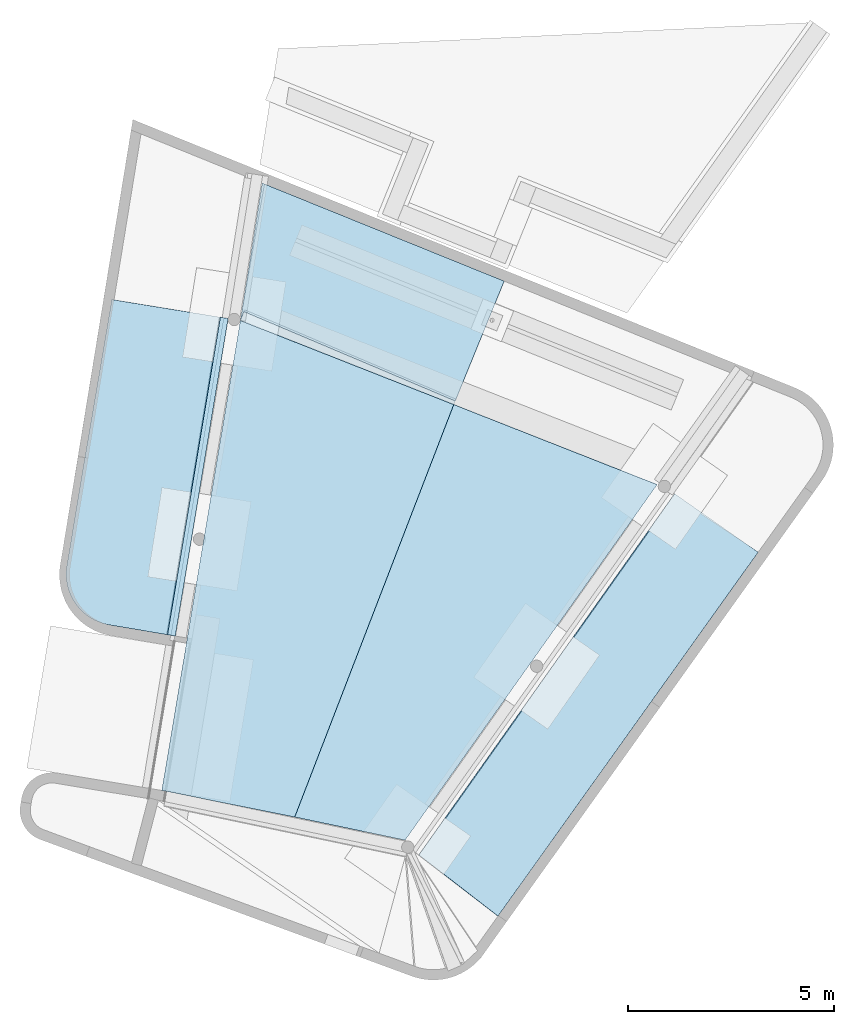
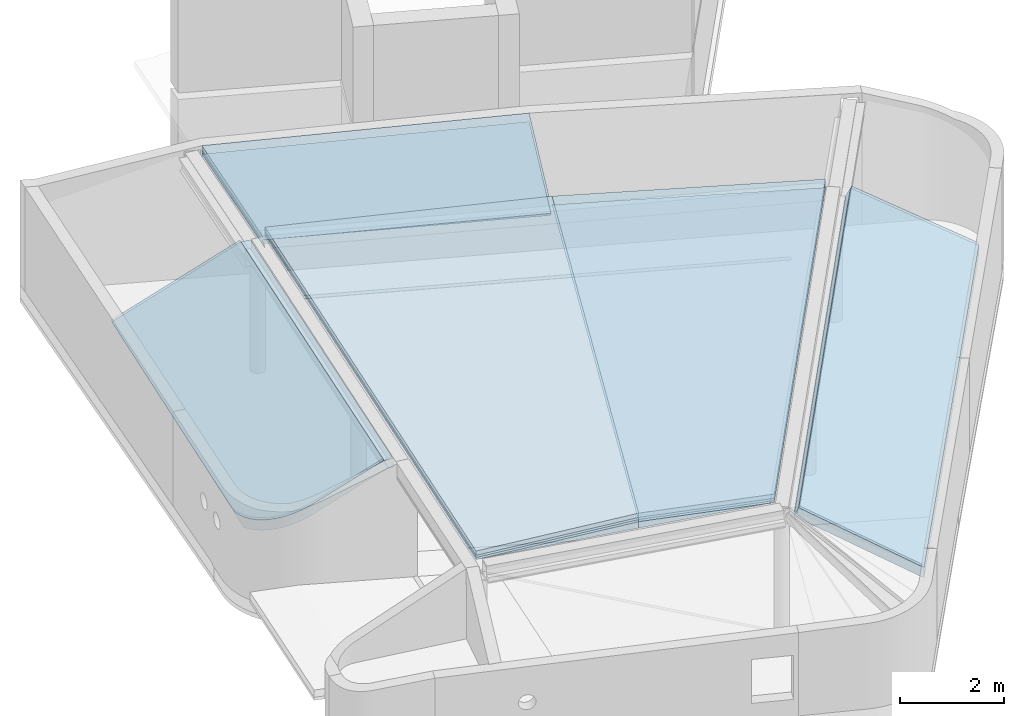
# One storey, part 4 of 8: 17 plates, 5 slabs.
"""IFC2X3 building model written with IfcOpenShell, lengths in millimetres."""

from ifc_helpers import new_model, si_unit, frame, origin_with_axes, place, context, subcontext, project, spatial, faceted_brep, material, type_object, element, save


model = new_model("IFC2X3")

# Units and contexts
model_context = context("Model", 3, precision=1e-05, world=origin_with_axes())
body_context = subcontext(model_context, "Body", "Model", "MODEL_VIEW")
ifc_project = project(units=[si_unit("LENGTHUNIT", "METRE", prefix="MILLI"), si_unit("AREAUNIT", "SQUARE_METRE"), si_unit("VOLUMEUNIT", "CUBIC_METRE"), si_unit("MASSUNIT", "GRAM", prefix="KILO"), si_unit("TIMEUNIT", "SECOND"), si_unit("PLANEANGLEUNIT", "RADIAN"), si_unit("SOLIDANGLEUNIT", "STERADIAN"), si_unit("THERMODYNAMICTEMPERATUREUNIT", "DEGREE_CELSIUS"), si_unit("LUMINOUSINTENSITYUNIT", "LUMEN")], contexts=[model_context])

# Site, building, storey
site_placement = place(None, origin_with_axes())
site = spatial("IfcSite", under=ifc_project, at=site_placement, Name="Site", CompositionType="ELEMENT")
building_placement = place(site_placement, origin_with_axes())
building = spatial("IfcBuilding", under=site, at=building_placement, Name="Undefined", CompositionType="ELEMENT")
storey_placement = place(building_placement, origin_with_axes())
storey = spatial("IfcBuildingStorey", under=building, at=storey_placement, Name="Undefined", CompositionType="ELEMENT", Elevation=0.0)

# Plates
ifc_material_1 = material(Name="MISCELLANEOUS/XPS")
plate_type_1 = type_object("IfcPlateType", Name="50*2751", PredefinedType="NOTDEFINED")
plate_1_placement = place(storey_placement, frame((55581.5771291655, 47964.5791632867, 38505.6678361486), z_axis=(-0.574260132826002, -0.818669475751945, -0.00236417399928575), x_axis=(-0.737870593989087, 0.516328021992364, 0.434686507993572)))
element("IfcPlate", 1, at=plate_1_placement, inside=storey, type_object=plate_type_1, material=ifc_material_1, Name="ISOLASJON", ObjectType="50*2751", context=body_context, shape_type="Brep", body=[
    faceted_brep([(118.461317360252, -25.0000000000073, 1.30967237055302e-10), (226.955693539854, -25.0000000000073, 10860.446277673), (202.831034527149, 25.0, 10861.4857183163), (94.3262744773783, 24.9999999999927, 1.01863406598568e-10), (2898.96802088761, -25.0000000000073, 10745.3193359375), (2845.37622070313, -25.0000000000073, 3.24507709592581e-09), (2845.37622070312, 24.9999999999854, 3.24507709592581e-09), (2898.96802088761, 24.9999999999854, 10745.3193359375)], [[[0, 1, 2, 3]], [[4, 5, 6, 7]], [[6, 5, 0, 3]], [[7, 6, 3, 2]], [[4, 7, 2, 1]], [[5, 4, 1, 0]]]),
])
ifc_material_2 = material(Name="MISCELLANEOUS/Misc_Undefined")
plate_type_2 = type_object("IfcPlateType", Name="0.5*2751", PredefinedType="NOTDEFINED")
plate_2_placement = place(storey_placement, frame((55572.7996929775, 47970.8005110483, 38483.3785125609), z_axis=(-0.574260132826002, -0.818669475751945, -0.00236417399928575), x_axis=(-0.737870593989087, 0.516328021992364, 0.434686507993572)))
element("IfcPlate", 2, at=plate_2_placement, inside=storey, type_object=plate_type_2, material=ifc_material_2, Name="MEMBRAN", ObjectType="0.5*2751", context=body_context, shape_type="Brep", body=[
    faceted_brep([(94.5676249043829, -0.250000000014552, -2.47382558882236e-10), (203.072281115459, -0.250000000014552, 10861.47532391), (202.831034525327, 0.249999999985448, 10861.4857183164), (94.3262744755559, 0.25, -2.47382558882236e-10), (2898.9680208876, -0.250000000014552, 10745.3193359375), (2845.37622070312, -0.250000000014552, -6.99947122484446e-09), (2845.37622070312, 0.249999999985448, -6.99947122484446e-09), (2898.96802088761, 0.249999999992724, 10745.3193359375)], [[[0, 1, 2, 3]], [[4, 5, 6, 7]], [[6, 5, 0, 3]], [[7, 6, 3, 2]], [[4, 7, 2, 1]], [[5, 4, 1, 0]]]),
])

# Slab
ifc_material_3 = material(Name="CONCRETE/C35/45")
slab_type_1 = type_object("IfcSlabType", Name="220*2845", PredefinedType="NOTDEFINED")
slab_1_placement = place(storey_placement, frame((55533.7002045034, 47998.513787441, 38384.0897074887), z_axis=(-0.574260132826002, -0.818669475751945, -0.00236417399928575), x_axis=(-0.737870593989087, 0.516328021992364, 0.434686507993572)))
element("IfcSlab", 3, at=slab_1_placement, inside=storey, type_object=slab_type_1, material=ifc_material_3, Name="PLASSTØPTDEKKE", ObjectType="220*2845", PredefinedType="FLOOR", context=body_context, shape_type="Brep", body=[
    faceted_brep([(-4.9453774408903e-12, 85.4135215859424, 0.0), (94.3262744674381, -110.000000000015, 1.45519152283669e-11), (202.831034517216, -110.000000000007, 10861.4857183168), (97.8538622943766, 107.572344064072, 10866.0087890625), (2898.96802088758, -110.0, 10745.3193359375), (2845.37622070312, -110.000000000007, 7.42147676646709e-10), (2845.37622070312, 109.999999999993, 7.42147676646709e-10), (2898.96802088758, 110.0, 10745.3193359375), (-1.30739863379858e-12, 110.0, 0.0), (97.853862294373, 110.0, 10866.0087890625)], [[[0, 1, 2, 3]], [[4, 5, 6, 7]], [[7, 6, 8, 9]], [[9, 8, 0, 3]], [[4, 7, 9, 3, 2]], [[5, 4, 2, 1]], [[8, 6, 5, 1, 0]]]),
])

# Plates
plate_type_3 = type_object("IfcPlateType", Name="0.5*2953", PredefinedType="NOTDEFINED")
plate_3_placement = place(storey_placement, frame((39829.6934708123, 54150.5559408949, 38500.3800361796), z_axis=(0.895420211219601, -0.153168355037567, 0.418045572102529), x_axis=(-0.168100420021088, -0.985769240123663, -0.00111982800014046)))
element("IfcPlate", 4, at=plate_3_placement, inside=storey, type_object=plate_type_3, material=ifc_material_2, Name="MEMBRAN", ObjectType="0.5*2953", context=body_context, shape_type="Brep", body=[
    faceted_brep([(7790.86816341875, 0.25, 2952.84619140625), (7790.86816341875, -0.25, 2952.84619140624), (7793.81075090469, -0.250000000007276, 2890.21367188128), (7793.81078155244, 0.25, 2890.21301954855), (-21.4249445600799, -0.25, 2917.90771484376), (0.0, -0.249999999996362, -7.27595761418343e-12), (6703.78802187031, -0.250000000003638, 7.93079379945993e-09), (6731.83773042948, -0.25, 3.46322182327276), (6819.43328933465, -0.25, 21.308040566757), (6905.64849798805, -0.249999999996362, 45.976353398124), (6990.04539843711, -0.25, 77.3428496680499), (7072.1952694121, -0.25, 115.248193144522), (7151.68080415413, -0.249999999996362, 159.499831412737), (7228.09823025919, -0.25, 209.872974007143), (7301.05936077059, -0.25, 266.111734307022), (7370.19356609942, -0.25, 327.930429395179), (7435.14965675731, -0.25, 395.015031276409), (7495.59766733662, -0.25, 467.024762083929), (7551.23053267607, -0.249999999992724, 543.593825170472), (7601.76564769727, -0.249999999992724, 624.333263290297), (7646.94630298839, -0.249999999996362, 708.832934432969), (7686.54298884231, -0.25, 796.663595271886), (7720.35456112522, -0.249999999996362, 887.379081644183), (7748.20926305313, -0.25, 980.518574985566), (7769.96559768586, -0.25, 1075.60894320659), (7785.51304670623, -0.249999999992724, 1172.16714411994), (7794.77263183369, -0.25, 1269.70267920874), (7797.69731601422, -0.25, 1367.72008526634), (-21.4249445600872, 0.25, 2917.90771484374), (0.0, 0.249999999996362, 0.0), (6705.65223703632, 0.25, 7.92351784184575e-09), (6731.83834678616, 0.25, 3.23312830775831), (6819.43390569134, 0.25, 21.0779470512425), (6905.64911434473, 0.250000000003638, 45.7462598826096), (6990.04601479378, 0.25, 77.1127561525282), (7072.19588576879, 0.25, 115.018099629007), (7151.68142051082, 0.249999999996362, 159.269737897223), (7228.09884661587, 0.25, 209.642880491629), (7301.05997712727, 0.25, 265.881640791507), (7370.19418245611, 0.25, 327.700335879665), (7435.15027311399, 0.25, 394.784937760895), (7495.5982836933, 0.25, 466.794668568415), (7551.23114903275, 0.25, 543.36373165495), (7601.76626405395, 0.250000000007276, 624.103169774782), (7646.94691934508, 0.250000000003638, 708.602840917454), (7686.54360519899, 0.25, 796.433501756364), (7720.35517748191, 0.250000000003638, 887.148988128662), (7748.20987940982, 0.25, 980.288481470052), (7769.96621404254, 0.25, 1075.37884969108), (7785.51366306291, 0.250000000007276, 1171.93705060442), (7794.77324819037, 0.250000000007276, 1269.47258569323), (7797.6979323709, 0.25, 1367.48999175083)], [[[0, 1, 2, 3]], [[1, 4, 5, 6, 7, 8, 9, 10, 11, 12, 13, 14, 15, 16, 17, 18, 19, 20, 21, 22, 23, 24, 25, 26, 27, 2]], [[5, 4, 28, 29]], [[5, 29, 30, 6]], [[6, 30, 31, 7]], [[7, 31, 32, 8]], [[8, 32, 33, 9]], [[9, 33, 34, 10]], [[10, 34, 35, 11]], [[11, 35, 36, 12]], [[12, 36, 37, 13]], [[13, 37, 38, 14]], [[14, 38, 39, 15]], [[15, 39, 40, 16]], [[16, 40, 41, 17]], [[17, 41, 42, 18]], [[18, 42, 43, 19]], [[19, 43, 44, 20]], [[20, 44, 45, 21]], [[21, 45, 46, 22]], [[22, 46, 47, 23]], [[23, 47, 48, 24]], [[24, 48, 49, 25]], [[25, 49, 50, 26]], [[26, 50, 51, 27]], [[2, 27, 51, 3]], [[50, 49, 48, 47, 46, 45, 44, 43, 42, 41, 40, 39, 38, 37, 36, 35, 34, 33, 32, 31, 30, 29, 28, 0, 3, 51]], [[4, 1, 0, 28]]]),
])
plate_type_4 = type_object("IfcPlateType", Name="50*2953", PredefinedType="NOTDEFINED")
plate_4_placement = place(storey_placement, frame((39819.4898381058, 54152.2703961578, 38522.8635639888), z_axis=(0.895420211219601, -0.153168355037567, 0.418045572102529), x_axis=(-0.168100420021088, -0.985769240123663, -0.00111982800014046)))
element("IfcPlate", 5, at=plate_4_placement, inside=storey, type_object=plate_type_4, material=ifc_material_1, Name="ISOLASJON", ObjectType="50*2953", context=body_context, shape_type="Brep", body=[
    faceted_brep([(7790.86816341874, 24.9999999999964, 2952.84619140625), (7790.86816341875, -25.0000000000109, 2952.84619140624), (7793.80771677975, -25.0000000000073, 2890.27825276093), (7793.81078155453, 24.9999999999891, 2890.21301950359), (-21.4249445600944, -25.0000000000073, 2917.90771484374), (-21.4249445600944, 24.9999999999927, 2917.90771484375), (0.0, -25.0000000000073, 0.0), (4585.07825695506, -25.0000000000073, -5.4424162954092e-09), (4585.07326856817, -25.0000000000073, 1.04174964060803), (5240.71642432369, -25.0000000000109, 4.47421312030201), (6554.22917366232, -25.0000000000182, 11.3507960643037), (6643.2457718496, -25.0000000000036, 15.3118037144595), (6731.77671111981, -25.0000000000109, 26.2424798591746), (6819.37227002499, -25.0000000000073, 44.0872986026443), (6905.58747867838, -25.0000000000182, 68.7556114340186), (6989.98437912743, -25.0000000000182, 100.122107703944), (7072.13425010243, -25.0000000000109, 138.027451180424), (7151.61978484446, -25.0000000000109, 182.279089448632), (7228.03721094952, -25.0000000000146, 232.652232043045), (7300.99834146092, -25.0000000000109, 288.890992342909), (7370.13254678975, -25.0000000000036, 350.709687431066), (7435.08863744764, -25.0000000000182, 417.794289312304), (7495.53664802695, -25.0000000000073, 489.804020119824), (7551.1695133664, -25.0000000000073, 566.373083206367), (7601.7046283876, -25.0000000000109, 647.112521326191), (7646.88528367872, -25.0000000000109, 731.612192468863), (7686.48196953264, -25.0000000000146, 819.442853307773), (7720.29354181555, -25.0000000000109, 910.158339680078), (7748.14824374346, -25.0000000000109, 1003.29783302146), (7769.90457837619, -25.0000000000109, 1098.38820124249), (7785.45202739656, -25.0000000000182, 1194.94640215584), (7794.71161252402, -25.0000000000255, 1292.48193724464), (7797.63629670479, -25.0000000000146, 1390.49934330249), (6554.25957929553, -0.33438513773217, -7.76344677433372e-09), (6643.28678792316, 8.27300138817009, -7.86531018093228e-09), (4585.07605912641, -22.7362472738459, -5.43514033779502e-09), (5240.72840949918, -15.2774028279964, -6.21366780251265e-09), (0.0, 24.9999999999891, -7.27595761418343e-12), (6705.65223691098, 24.9999999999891, -7.95262167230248e-09), (6731.83834678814, 24.9999999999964, 3.23312830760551), (6819.43390569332, 25.0, 21.0779470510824), (6905.64911434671, 24.9999999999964, 45.7462598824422), (6990.04601479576, 24.9999999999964, 77.1127561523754), (7072.19588577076, 25.0000000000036, 115.018099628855), (7151.68142051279, 24.9999999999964, 159.269737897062), (7228.09884661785, 25.0, 209.642880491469), (7301.05997712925, 24.9999999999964, 265.881640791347), (7370.19418245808, 25.0000000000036, 327.700335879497), (7435.15027311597, 24.9999999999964, 394.784937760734), (7495.59828369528, 25.0, 466.794668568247), (7551.23114903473, 25.0, 543.363731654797), (7601.76626405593, 24.9999999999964, 624.103169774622), (7646.94691934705, 25.0000000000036, 708.602840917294), (7686.54360520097, 24.9999999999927, 796.433501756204), (7720.35517748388, 25.0000000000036, 887.148988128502), (7748.20987941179, 25.0000000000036, 980.288481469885), (7769.96621404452, 25.0000000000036, 1075.37884969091), (7785.51366306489, 24.9999999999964, 1171.93705060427), (7794.77324819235, 24.9999999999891, 1269.47258569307), (7797.69793237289, 25.0, 1367.48999175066)], [[[0, 1, 2, 3]], [[4, 1, 0, 5]], [[1, 4, 6, 7, 8, 9, 10, 11, 12, 13, 14, 15, 16, 17, 18, 19, 20, 21, 22, 23, 24, 25, 26, 27, 28, 29, 30, 31, 32, 2]], [[10, 33, 34, 11]], [[9, 8, 35, 36, 33, 10]], [[7, 35, 8]], [[6, 37, 38, 34, 33, 36, 35, 7]], [[11, 34, 38, 39, 12]], [[12, 39, 40, 13]], [[13, 40, 41, 14]], [[14, 41, 42, 15]], [[15, 42, 43, 16]], [[16, 43, 44, 17]], [[17, 44, 45, 18]], [[18, 45, 46, 19]], [[19, 46, 47, 20]], [[20, 47, 48, 21]], [[21, 48, 49, 22]], [[22, 49, 50, 23]], [[23, 50, 51, 24]], [[24, 51, 52, 25]], [[25, 52, 53, 26]], [[26, 53, 54, 27]], [[27, 54, 55, 28]], [[28, 55, 56, 29]], [[29, 56, 57, 30]], [[30, 57, 58, 31]], [[31, 58, 59, 32]], [[3, 2, 32, 59]], [[58, 57, 56, 55, 54, 53, 52, 51, 50, 49, 48, 47, 46, 45, 44, 43, 42, 41, 40, 39, 38, 37, 5, 0, 3, 59]], [[6, 4, 5, 37]]]),
])

# Slab
slab_type_2 = type_object("IfcSlabType", Name="220*2953", PredefinedType="NOTDEFINED")
slab_2_placement = place(storey_placement, frame((39875.146016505, 54142.9188219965, 38400.2261395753), z_axis=(0.895420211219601, -0.153168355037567, 0.418045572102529), x_axis=(-0.168100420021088, -0.985769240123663, -0.00111982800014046)))
element("IfcSlab", 6, at=slab_2_placement, inside=storey, type_object=slab_type_2, material=ifc_material_3, Name="PLASSTØPTDEKKE", ObjectType="220*2953", PredefinedType="FLOOR", context=body_context, shape_type="Brep", body=[
    faceted_brep([(7790.86816341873, 109.999999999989, 2952.84619140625), (7790.86816341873, -110.000000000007, 2952.84619140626), (7793.81078154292, -110.000000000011, 2890.21301975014), (7793.82426655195, 109.999999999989, 2889.92599341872), (-21.4249445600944, -110.000000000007, 2917.90771484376), (-21.4249445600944, 109.999999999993, 2917.90771484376), (6705.65223676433, -110.000000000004, -2.38142092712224e-08), (6731.84700743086, -102.97431671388, -2.39379005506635e-08), (6731.83834677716, -110.000000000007, 3.23312830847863), (6819.49036765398, -64.1969989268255, -2.4236214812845e-08), (6819.43390568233, -110.000000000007, 21.0779470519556), (6905.77165587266, -10.592027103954, -2.45490809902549e-08), (6905.64911433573, -110.000000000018, 45.7462598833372), (6990.25257846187, 57.5682950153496, -2.48546712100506e-08), (6990.04601478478, -110.000000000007, 77.1127561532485), (-7.27595761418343e-12, -110.000000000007, 7.27595761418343e-12), (7072.19588575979, -110.000000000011, 115.018099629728), (7151.6814205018, -110.000000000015, 159.269737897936), (7228.09884660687, -110.000000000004, 209.642880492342), (7301.05997711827, -110.000000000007, 265.881640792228), (7370.19418244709, -110.000000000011, 327.700335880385), (7435.15027310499, -110.000000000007, 394.784937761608), (7495.5982836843, -110.000000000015, 466.794668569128), (7551.23114902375, -110.000000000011, 543.363731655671), (7601.76626404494, -110.000000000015, 624.103169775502), (7646.94691933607, -110.000000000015, 708.602840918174), (7686.54360518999, -110.000000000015, 796.433501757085), (7720.35517747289, -110.000000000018, 887.148988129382), (7748.20987940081, -110.000000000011, 980.288481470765), (7769.96621403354, -110.000000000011, 1075.3788496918), (7785.51366305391, -110.000000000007, 1171.93705060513), (7794.77324818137, -110.000000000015, 1269.47258569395), (7797.69793236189, -110.000000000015, 1367.48999175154), (-1.30739863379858e-12, 110.0, 0.0), (7042.60915784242, 109.999999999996, -2.50220182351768e-08), (7072.46708270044, 109.999999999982, 13.7769528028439), (7151.95261744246, 109.999999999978, 58.0285910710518), (7228.37004354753, 109.999999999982, 108.401733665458), (7301.33117405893, 109.999999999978, 164.640493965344), (7370.46537938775, 109.999999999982, 226.459189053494), (7435.42147004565, 109.999999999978, 293.543790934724), (7495.86948062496, 109.999999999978, 365.553521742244), (7551.5023459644, 109.999999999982, 442.122584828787), (7602.0374609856, 109.999999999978, 522.862022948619), (7647.21811627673, 109.999999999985, 607.361694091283), (7686.81480213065, 109.999999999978, 695.192354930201), (7720.62637441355, 109.999999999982, 785.907841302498), (7748.48107634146, 109.999999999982, 879.047334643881), (7770.2374109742, 109.999999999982, 974.137702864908), (7785.78485999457, 109.999999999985, 1070.69590377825), (7795.04444512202, 109.999999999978, 1168.23143886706), (7797.96912930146, 109.999999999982, 1266.24884492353)], [[[0, 1, 2, 3]], [[4, 1, 0, 5]], [[6, 7, 8]], [[8, 7, 9, 10]], [[10, 9, 11, 12]], [[12, 11, 13, 14]], [[1, 4, 15, 6, 8, 10, 12, 14, 16, 17, 18, 19, 20, 21, 22, 23, 24, 25, 26, 27, 28, 29, 30, 31, 32, 2]], [[11, 9, 7, 6, 15, 33, 34, 13]], [[14, 13, 34, 35, 16]], [[16, 35, 36, 17]], [[17, 36, 37, 18]], [[18, 37, 38, 19]], [[19, 38, 39, 20]], [[20, 39, 40, 21]], [[21, 40, 41, 22]], [[22, 41, 42, 23]], [[23, 42, 43, 24]], [[24, 43, 44, 25]], [[25, 44, 45, 26]], [[26, 45, 46, 27]], [[27, 46, 47, 28]], [[28, 47, 48, 29]], [[29, 48, 49, 30]], [[30, 49, 50, 31]], [[31, 50, 51, 32]], [[3, 2, 32, 51]], [[50, 49, 48, 47, 46, 45, 44, 43, 42, 41, 40, 39, 38, 37, 36, 35, 34, 33, 5, 0, 3, 51]], [[15, 4, 5, 33]]]),
])

# Plates
plate_type_5 = type_object("IfcPlateType", Name="0.5*3290", PredefinedType="NOTDEFINED")
plate_5_placement = place(storey_placement, frame((49336.8329205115, 54600.5878231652, 39590.2500057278), z_axis=(-0.375381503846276, -0.926870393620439, 0.0), x_axis=(-0.926870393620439, 0.375381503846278, -1.00000004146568e-09)))
element("IfcPlate", 7, at=plate_5_placement, inside=storey, type_object=plate_type_5, material=ifc_material_2, Name="MEMBRAN", ObjectType="0.5*3290", context=body_context, shape_type="Brep", body=[
    faceted_brep([(5580.44080977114, 148.585951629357, 3011.94923301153), (5580.436274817, 148.088725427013, 3012.41536051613), (5577.73265706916, 149.74238941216, 3290.30810958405), (5577.73265707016, 150.242389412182, 3290.30810958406), (10.0584080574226, 0.249999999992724, 3096.82654507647), (10.0599306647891, -0.250000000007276, 3097.29533207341), (291.329050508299, 6.40662813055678, 3093.79091379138), (292.268235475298, 6.92889129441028, 3093.3104062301), (5578.01513671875, 149.75, 3290.31079101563), (6338.35546875, 149.75, -4.32191882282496e-09), (6338.35546875, 150.25, -4.33647073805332e-09), (5578.01513671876, 150.25, 3290.31079101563), (0.0, -0.249999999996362, -7.27595761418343e-12), (0.0, 0.249999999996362, 0.0)], [[[0, 1, 2, 3]], [[4, 5, 6, 1, 0, 7]], [[8, 9, 10, 11]], [[9, 12, 13, 10]], [[10, 13, 4, 7]], [[3, 11, 10, 7, 0]], [[8, 11, 3, 2]], [[9, 8, 2, 1, 6]], [[12, 9, 6, 5]], [[13, 12, 5, 4]]]),
])
plate_type_6 = type_object("IfcPlateType", Name="0.5*5446", PredefinedType="NOTDEFINED")
plate_6_placement = place(storey_placement, frame((42931.3933007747, 53643.4498945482, 39890.2499999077), z_axis=(0.986275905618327, -0.165105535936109, 0.0), x_axis=(-0.165105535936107, -0.986275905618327, 0.0)))
element("IfcPlate", 8, at=plate_6_placement, inside=storey, type_object=plate_type_6, material=ifc_material_2, Name="MEMBRAN", ObjectType="0.5*5446", context=body_context, shape_type="Brep", body=[
    faceted_brep([(11670.98828125, -0.25, 3291.28710937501), (1156.40539550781, -0.25, 5446.05664062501), (11565.92578125, 149.75, -1.81025825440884e-08), (0.0, 150.25, 0.0), (1156.40539550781, 0.25, 5446.05664062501), (11565.92578125, 150.25, -1.81025825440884e-08), (0.0, 149.75, 0.0), (11670.98828125, 0.25, 3291.28710937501)], [[[0, 1, 2]], [[3, 4, 5]], [[6, 1, 4, 3]], [[1, 0, 7, 4]], [[0, 2, 5, 7]], [[2, 6, 3, 5]], [[7, 5, 4]], [[6, 2, 1]]]),
])
plate_type_7 = type_object("IfcPlateType", Name="0.5*5306", PredefinedType="NOTDEFINED")
plate_7_placement = place(storey_placement, frame((48111.7790924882, 51603.7409769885, 39890.2499999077), z_axis=(0.933049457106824, -0.359748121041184, 0.0), x_axis=(-0.359748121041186, -0.933049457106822, 0.0)))
element("IfcPlate", 9, at=plate_7_placement, inside=storey, type_object=plate_type_7, material=ifc_material_2, Name="MEMBRAN", ObjectType="0.5*5306", context=body_context, shape_type="Brep", body=[
    faceted_brep([(10293.7294921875, 149.75, 2702.93359375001), (37.4850387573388, 149.75, 5305.70996093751), (10733.1015625, -0.25, -4.24188328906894e-09), (10733.1015625, 0.25, -4.24188328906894e-09), (0.0, 0.249999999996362, 0.0), (10293.7294921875, 150.25, 2702.93359375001), (0.0, -0.249999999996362, -7.27595761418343e-12), (37.4850387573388, 150.25, 5305.70996093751)], [[[0, 1, 2]], [[3, 4, 5]], [[6, 1, 7, 4]], [[1, 0, 5, 7]], [[0, 2, 3, 5]], [[2, 6, 4, 3]], [[7, 5, 4]], [[6, 2, 1]]]),
])
plate_type_8 = type_object("IfcPlateType", Name="50*3290", PredefinedType="NOTDEFINED")
plate_8_placement = place(storey_placement, frame((49336.8329204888, 54600.5878231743, 39665.0000057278), z_axis=(-0.375381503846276, -0.926870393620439, 0.0), x_axis=(-0.926870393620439, 0.375381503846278, -1.00000004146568e-09)))
element("IfcPlate", 10, at=plate_8_placement, inside=storey, type_object=plate_type_8, material=ifc_material_2, Name="DRENSLAG", ObjectType="50*3290", context=body_context, shape_type="Brep", body=[
    faceted_brep([(0.0, -25.0000000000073, 0.0), (6338.35546875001, 125.0, -4.36557456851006e-09), (198.349738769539, -20.5474250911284, 3141.36116236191), (10.210668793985, -25.0000000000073, 3143.70524477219), (0.0, 24.9999999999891, -7.27595761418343e-12), (10.0584080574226, 24.9999999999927, 3096.82654507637), (6338.35546875, 175.0, -4.36557456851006e-09), (292.268235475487, 31.6788912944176, 3093.31040622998), (5578.01513671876, 125.0, 3290.31079101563), (5578.01513671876, 175.0, 3290.31079101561), (5577.73265697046, 124.992389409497, 3290.3081095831), (5579.65403592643, 123.817180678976, 3092.81817946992), (5579.98731435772, 123.613331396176, 3058.56198347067), (5580.44080977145, 173.335951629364, 3011.94923301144), (5580.13758552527, 173.521418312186, 3043.11629404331), (5577.73265707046, 174.992389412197, 3290.30810958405)], [[[0, 1, 2, 3]], [[4, 0, 3, 5]], [[6, 4, 5, 7]], [[1, 0, 4, 6]], [[8, 1, 6, 9]], [[1, 8, 10, 11, 12, 2]], [[5, 3, 2, 12, 13, 7]], [[14, 15, 9, 6, 7, 13]], [[8, 9, 15, 10]], [[14, 13, 12, 11, 10, 15]]]),
])
plate_9_placement = place(storey_placement, frame((49336.8329205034, 54600.5878232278, 39615.0000057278), z_axis=(-0.375381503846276, -0.926870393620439, 0.0), x_axis=(-0.926870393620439, 0.375381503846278, -1.00000004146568e-09)))
element("IfcPlate", 11, at=plate_9_placement, inside=storey, type_object=plate_type_8, material=ifc_material_1, Name="ISOLASJON", ObjectType="50*3290", context=body_context, shape_type="Brep", body=[
    faceted_brep([(5580.44080977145, 173.335951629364, 3011.94923301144), (5579.98731435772, 123.613331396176, 3058.56198347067), (5577.73265697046, 124.992389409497, 3290.3081095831), (5577.73265707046, 174.992389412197, 3290.30810958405), (10.0584080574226, 24.9999999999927, 3096.82654507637), (10.210668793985, -25.0000000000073, 3143.70524477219), (198.349738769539, -20.5474250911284, 3141.36116236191), (292.268235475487, 31.6788912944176, 3093.31040622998), (5578.01513671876, 125.0, 3290.31079101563), (6338.35546875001, 125.0, -4.36557456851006e-09), (6338.35546875, 175.0, -4.36557456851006e-09), (5578.01513671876, 175.0, 3290.31079101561), (0.0, -25.0000000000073, 0.0), (0.0, 24.9999999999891, -7.27595761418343e-12)], [[[0, 1, 2, 3]], [[4, 5, 6, 1, 0, 7]], [[8, 9, 10, 11]], [[9, 12, 13, 10]], [[10, 13, 4, 7]], [[3, 11, 10, 7, 0]], [[8, 11, 3, 2]], [[9, 8, 2, 1, 6]], [[12, 9, 6, 5]], [[13, 12, 5, 4]]]),
])
plate_type_9 = type_object("IfcPlateType", Name="50*5446", PredefinedType="NOTDEFINED")
plate_10_placement = place(storey_placement, frame((42931.3933007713, 53643.4498945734, 39964.9999999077), z_axis=(0.986275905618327, -0.165105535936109, 0.0), x_axis=(-0.165105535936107, -0.986275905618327, 0.0)))
element("IfcPlate", 12, at=plate_10_placement, inside=storey, type_object=plate_type_9, material=ifc_material_2, Name="DRENSLAG", ObjectType="50*5446", context=body_context, shape_type="Brep", body=[
    faceted_brep([(11670.98828125, -25.0, 3291.287109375), (1156.40539550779, -25.0, 5446.056640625), (11565.92578125, 125.0, -1.81316863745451e-08), (-7.27595761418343e-12, 175.0, 0.0), (1156.40539550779, 25.0, 5446.056640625), (11565.92578125, 175.0, -1.81316863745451e-08), (-7.27595761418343e-12, 125.0, 0.0), (11670.98828125, 25.0, 3291.287109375)], [[[0, 1, 2]], [[3, 4, 5]], [[6, 1, 4, 3]], [[1, 0, 7, 4]], [[0, 2, 5, 7]], [[2, 6, 3, 5]], [[7, 5, 4]], [[6, 2, 1]]]),
])
plate_11_placement = place(storey_placement, frame((42931.3933007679, 53643.4498945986, 39914.9999999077), z_axis=(0.986275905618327, -0.165105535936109, 0.0), x_axis=(-0.165105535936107, -0.986275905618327, 0.0)))
element("IfcPlate", 13, at=plate_11_placement, inside=storey, type_object=plate_type_9, material=ifc_material_1, Name="ISOLASJON", ObjectType="50*5446", context=body_context, shape_type="Brep", body=[
    faceted_brep([(11670.98828125, -25.0, 3291.287109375), (1156.40539550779, -25.0, 5446.056640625), (11565.92578125, 125.0, -1.81316863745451e-08), (-7.27595761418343e-12, 175.0, 0.0), (1156.40539550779, 25.0, 5446.056640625), (11565.92578125, 175.0, -1.81316863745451e-08), (-7.27595761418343e-12, 125.0, 0.0), (11670.98828125, 25.0, 3291.287109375)], [[[0, 1, 2]], [[3, 4, 5]], [[6, 1, 4, 3]], [[1, 0, 7, 4]], [[0, 2, 5, 7]], [[2, 6, 3, 5]], [[7, 5, 4]], [[6, 2, 1]]]),
])
plate_type_10 = type_object("IfcPlateType", Name="50*5306", PredefinedType="NOTDEFINED")
plate_12_placement = place(storey_placement, frame((48111.7790924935, 51603.7409770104, 39964.9999999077), z_axis=(0.933049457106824, -0.359748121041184, 0.0), x_axis=(-0.359748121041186, -0.933049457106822, 0.0)))
element("IfcPlate", 14, at=plate_12_placement, inside=storey, type_object=plate_type_10, material=ifc_material_2, Name="DRENSLAG", ObjectType="50*5306", context=body_context, shape_type="Brep", body=[
    faceted_brep([(10293.7294921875, 125.0, 2702.93359375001), (37.4850387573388, 125.0, 5305.70996093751), (10733.1015625, -25.0, 2.38869688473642e-08), (10733.1015625, 25.0, 2.38869688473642e-08), (0.0, 24.9999999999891, -7.27595761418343e-12), (10293.7294921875, 175.0, 2702.93359375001), (0.0, -25.0000000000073, 0.0), (37.4850387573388, 175.0, 5305.70996093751)], [[[0, 1, 2]], [[3, 4, 5]], [[6, 1, 7, 4]], [[1, 0, 5, 7]], [[0, 2, 3, 5]], [[2, 6, 4, 3]], [[7, 5, 4]], [[6, 2, 1]]]),
])
plate_13_placement = place(storey_placement, frame((48111.7790924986, 51603.7409770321, 39914.9999999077), z_axis=(0.933049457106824, -0.359748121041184, 0.0), x_axis=(-0.359748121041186, -0.933049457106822, 0.0)))
element("IfcPlate", 15, at=plate_13_placement, inside=storey, type_object=plate_type_10, material=ifc_material_1, Name="ISOLASJON", ObjectType="50*5306", context=body_context, shape_type="Brep", body=[
    faceted_brep([(10293.7294921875, 125.0, 2702.93359375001), (37.4850387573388, 125.0, 5305.70996093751), (10733.1015625, -25.0, 2.38869688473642e-08), (10733.1015625, 25.0, 2.38869688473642e-08), (0.0, 24.9999999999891, -7.27595761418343e-12), (10293.7294921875, 175.0, 2702.93359375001), (0.0, -25.0000000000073, 0.0), (37.4850387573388, 175.0, 5305.70996093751)], [[[0, 1, 2]], [[3, 4, 5]], [[6, 1, 7, 4]], [[1, 0, 5, 7]], [[0, 2, 3, 5]], [[2, 6, 4, 3]], [[7, 5, 4]], [[6, 2, 1]]]),
])
plate_type_11 = type_object("IfcPlateType", Name="100*3290", PredefinedType="NOTDEFINED")
plate_14_placement = place(storey_placement, frame((49336.8329204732, 54600.5878232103, 39740.0000057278), z_axis=(-0.375381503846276, -0.926870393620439, 0.0), x_axis=(-0.926870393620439, 0.375381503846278, -1.00000004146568e-09)))
element("IfcPlate", 16, at=plate_14_placement, inside=storey, type_object=plate_type_11, material=ifc_material_2, Name="VEKSTLAG", ObjectType="100*3290", context=body_context, shape_type="Brep", body=[
    faceted_brep([(-7.27595761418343e-12, -50.0, -7.27595761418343e-12), (10.5151863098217, -50.0000000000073, 3237.46142578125), (10.5151863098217, 49.9999999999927, 3237.46142578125), (-7.27595761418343e-12, 50.0, -7.27595761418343e-12), (5578.01513671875, 100.0, 3290.31079101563), (5578.01513671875, 200.0, 3290.31079101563), (6338.35546875, 100.0, -4.35102265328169e-09), (6338.35546875, 200.0, -4.35102265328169e-09)], [[[0, 1, 2, 3]], [[1, 4, 5, 2]], [[4, 6, 7, 5]], [[5, 7, 2]], [[3, 2, 7]], [[6, 0, 3, 7]], [[0, 6, 1]], [[4, 1, 6]]]),
])

# Slab
ifc_material_4 = material(Name="CONCRETE/C30/37")
slab_type_3 = type_object("IfcSlabType", Name="75*5446", PredefinedType="NOTDEFINED")
slab_3_placement = place(storey_placement, frame((42931.4090059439, 53643.5421062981, 39777.4999999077), z_axis=(0.986275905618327, -0.165105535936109, 0.0), x_axis=(-0.165105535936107, -0.986275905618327, 0.0)))
element("IfcSlab", 17, at=slab_3_placement, inside=storey, type_object=slab_type_3, material=ifc_material_4, Name="PÅSTØP", ObjectType="75*5446", PredefinedType="FLOOR", context=body_context, shape_type="Brep", body=[
    faceted_brep([(11671.080078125, -112.5, 3291.28808593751), (1156.49865722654, -112.5, 5446.05859375), (11566.01953125, 37.5, -2.64481059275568e-08), (0.0, 37.8300000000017, 7.27595761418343e-12), (1156.49865722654, 37.5, 5446.05859375), (11566.01953125, 37.8300000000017, -2.64481059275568e-08), (0.0, 37.5, 7.27595761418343e-12), (11671.080078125, 37.5, 3291.28808593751)], [[[0, 1, 2]], [[3, 4, 5]], [[6, 1, 4, 3]], [[1, 0, 7, 4]], [[0, 2, 5, 7]], [[2, 6, 3, 5]], [[7, 5, 4]], [[6, 2, 1]]]),
])

# Plates
plate_type_12 = type_object("IfcPlateType", Name="100*5446", PredefinedType="NOTDEFINED")
plate_15_placement = place(storey_placement, frame((42931.3933007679, 53643.4498945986, 40039.9999999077), z_axis=(0.986275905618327, -0.165105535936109, 0.0), x_axis=(-0.165105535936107, -0.986275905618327, 0.0)))
element("IfcPlate", 18, at=plate_15_placement, inside=storey, type_object=plate_type_12, material=ifc_material_2, Name="VEKSTLAG", ObjectType="100*5446", context=body_context, shape_type="Brep", body=[
    faceted_brep([(11670.98828125, -50.0, 3291.287109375), (1156.40539550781, -50.0, 5446.056640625), (11565.92578125, 100.0, -1.81316863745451e-08), (0.0, 200.0, 0.0), (1156.40539550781, 50.0, 5446.056640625), (11565.92578125, 200.0, -1.81316863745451e-08), (0.0, 100.0, 0.0), (11670.98828125, 50.0, 3291.287109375)], [[[0, 1, 2]], [[3, 4, 5]], [[6, 1, 4, 3]], [[1, 0, 7, 4]], [[0, 2, 5, 7]], [[2, 6, 3, 5]], [[7, 5, 4]], [[6, 2, 1]]]),
])
plate_type_13 = type_object("IfcPlateType", Name="FIRKB192*200*100", PredefinedType="NOTDEFINED")
plate_16_placement = place(storey_placement, frame((42540.8521926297, 53708.9752640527, 39620.0), z_axis=(-0.986435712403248, 0.164148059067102, 0.0), x_axis=(-0.164148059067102, -0.986435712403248, 0.0)))
element("IfcPlate", 19, at=plate_16_placement, inside=storey, type_object=plate_type_13, material=ifc_material_3, Name="PLASSTØPTDEKKE", ObjectType="FIRKB192*200*100", context=body_context, shape_type="Brep", body=[
    faceted_brep([(0.0, -100.0, -96.0), (0.0, 100.0, -96.0), (7815.33087271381, 100.0, -96.0), (7815.33087271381, -100.0, -96.0), (-7.27595761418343e-12, 100.0, 95.9999999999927), (7815.33087271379, 100.0, 95.9999999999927), (-7.27595761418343e-12, -100.0, 3.99999999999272), (7815.33087271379, -100.0, 3.99999999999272)], [[[0, 1, 2, 3]], [[1, 4, 5, 2]], [[4, 6, 7, 5]], [[6, 0, 3, 7]], [[5, 7, 3, 2]], [[6, 4, 1, 0]]]),
])

# Slabs
slab_type_4 = type_object("IfcSlabType", Name="75*3290", PredefinedType="NOTDEFINED")
slab_4_placement = place(storey_placement, frame((42931.6089987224, 53644.7812981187, 39477.5), z_axis=(0.366563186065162, 0.930393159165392, 0.0), x_axis=(0.930393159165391, -0.366563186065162, 0.0)))
element("IfcSlab", 20, at=slab_4_placement, inside=storey, type_object=slab_type_4, material=ifc_material_4, Name="PÅSTØP", ObjectType="75*3290", PredefinedType="FLOOR", context=body_context, shape_type="Brep", body=[
    faceted_brep([(0.222468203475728, 37.826988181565, 280.239156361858), (0.22283656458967, 36.138684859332, 278.656372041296), (0.287649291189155, 37.4923073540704, 0.165951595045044), (0.287687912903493, 37.4922613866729, 0.0), (0.287687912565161, 37.829982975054, 1.45519152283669e-11), (0.287649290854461, 37.8299830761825, 0.165951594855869), (5579.1766844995, 37.5, 281.230982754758), (5577.76133889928, -112.5, 140.605649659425), (465.187899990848, 25.0594137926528, 268.377765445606), (485.901993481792, 37.8014119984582, 280.328209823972), (0.0, 37.5, 7.27595761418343e-12), (-670.230285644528, 37.5, 3296.75268554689), (-670.230285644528, 37.8300000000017, 3296.75268554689), (0.0, 37.8300000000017, 7.27595761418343e-12), (5608.91455078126, -112.5, 3235.91381835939), (5608.91455078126, 37.5, 3235.91381835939)], [[[0, 1, 2, 3, 4, 5]], [[6, 7, 8, 1, 0, 9]], [[10, 11, 12, 13]], [[11, 14, 15, 12]], [[15, 6, 9]], [[5, 13, 12, 15, 9, 0]], [[13, 5, 4]], [[10, 13, 4, 3]], [[10, 3, 2]], [[14, 11, 10, 2, 1, 8]], [[14, 8, 7]], [[15, 14, 7, 6]]]),
])
slab_type_5 = type_object("IfcSlabType", Name="75*5308", PredefinedType="NOTDEFINED")
slab_5_placement = place(storey_placement, frame((48111.7808663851, 51603.7404970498, 39777.4999999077), z_axis=(0.933049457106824, -0.359748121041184, 0.0), x_axis=(-0.359748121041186, -0.933049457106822, 0.0)))
element("IfcSlab", 21, at=slab_5_placement, inside=storey, type_object=slab_type_5, material=ifc_material_4, Name="PÅSTØP", ObjectType="75*5308", PredefinedType="FLOOR", context=body_context, shape_type="Brep", body=[
    faceted_brep([(10293.728515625, 37.5, 2702.93359375), (28.7770709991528, 37.5, 5307.94091796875), (10733.1015625, -112.5, 3.97594703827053e-08), (10733.1015625, 37.5, 3.97594703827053e-08), (0.0, 37.5, 7.27595761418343e-12), (10293.728515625, 37.8300000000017, 2702.93359375), (-7.27595761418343e-12, -112.5, 3.63797880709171e-12), (28.7770709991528, 37.8300000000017, 5307.94091796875)], [[[0, 1, 2]], [[3, 4, 5]], [[6, 1, 7, 4]], [[1, 0, 5, 7]], [[0, 2, 3, 5]], [[2, 6, 4, 3]], [[7, 5, 4]], [[6, 2, 1]]]),
])

# Plate
plate_type_14 = type_object("IfcPlateType", Name="100*5306", PredefinedType="NOTDEFINED")
plate_17_placement = place(storey_placement, frame((48111.7790924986, 51603.7409770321, 40039.9999999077), z_axis=(0.933049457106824, -0.359748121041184, 0.0), x_axis=(-0.359748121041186, -0.933049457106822, 0.0)))
element("IfcPlate", 22, at=plate_17_placement, inside=storey, type_object=plate_type_14, material=ifc_material_2, Name="VEKSTLAG", ObjectType="100*5306", context=body_context, shape_type="Brep", body=[
    faceted_brep([(10293.7294921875, 100.0, 2702.93359374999), (37.4850387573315, 100.0, 5305.7099609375), (10733.1015625, -50.0, 2.38542270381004e-08), (10733.1015625, 50.0, 2.38542270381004e-08), (-7.27595761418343e-12, 50.0, -7.27595761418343e-12), (10293.7294921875, 200.0, 2702.93359374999), (-7.27595761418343e-12, -50.0, -7.27595761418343e-12), (37.4850387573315, 200.0, 5305.7099609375)], [[[0, 1, 2]], [[3, 4, 5]], [[6, 1, 7, 4]], [[1, 0, 5, 7]], [[0, 2, 3, 5]], [[2, 6, 4, 3]], [[7, 5, 4]], [[6, 2, 1]]]),
])

save(model, "model.ifc")
